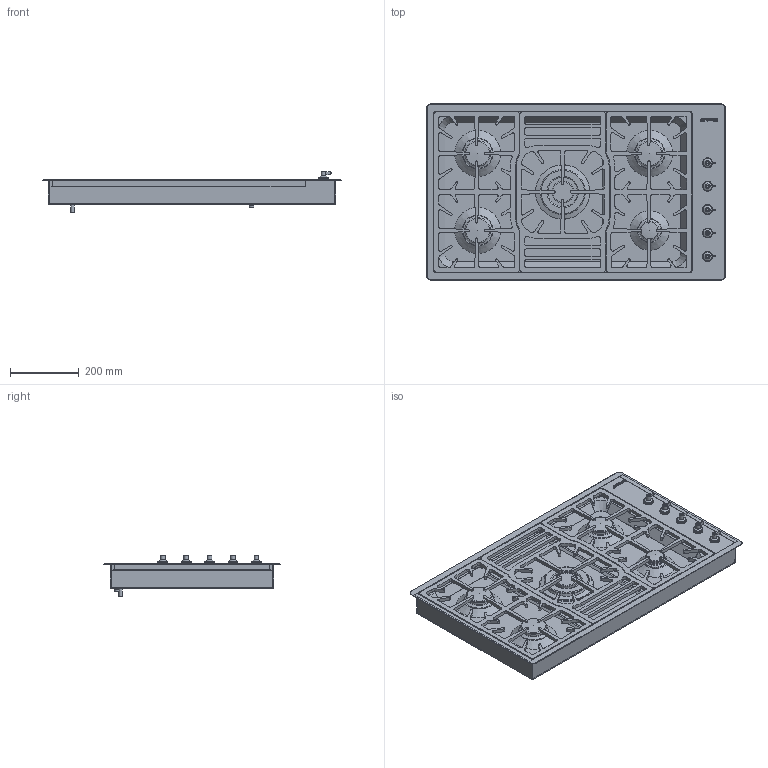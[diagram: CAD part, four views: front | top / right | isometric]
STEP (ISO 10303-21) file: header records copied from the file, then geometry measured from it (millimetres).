
FILE_DESCRIPTION(/* description */ (''),/* implementation_level */ '2;1');
FILE_NAME(/* name */ 'piano pgf95-4.stp',/* time_stamp */ '2018-08-08T17:10:33+02:00',/* author */ (''),/* organization */ (''),/* preprocessor_version */ 'ST-DEVELOPER v16',/* originating_system */ 'SIEMENS PLM Software NX 11.0',/* authorisation */ '');
FILE_SCHEMA (('AUTOMOTIVE_DESIGN { 1 0 10303 214 3 1 1 1 }'));
Length unit declared in the file: millimetre
Products named in the file (1): gobbAEC4546B4qmx
Bounding box: 868.2 x 513.05 x 118.9 mm (x, y, z)
Volume: 4076846.2 mm3; surface area: 2800636.1 mm2
Topology: 52 solids, 52 shells, 1032 faces, 2594 edges, 1711 vertices
Faces by surface type: plane 546, cylinder 389, cone 46, torus 36, extrusion 11, sphere 3, bspline 1
Full cylindrical faces by diameter (mm): 4.608 x6, 6 x5, 8 x5, 10 x13, 13.5 x5, 14 x2, 20 x5, 21.6 x1, 22 x1, 26 x1, 27 x5, 29 x5, 40.6 x3, 51 x1, 55 x1, 62 x1, 63.5 x1, 63.9 x1, 65.5 x1, 71 x3, 75 x3, 85.5 x3, 86.2 x1, 92 x1, 131 x1, 158 x1
Entity records: 30741 total; most frequent: CARTESIAN_POINT 5476, DIRECTION 5336, ORIENTED_EDGE 4844, EDGE_CURVE 2422, AXIS2_PLACEMENT_3D 1905, VERTEX_POINT 1691, VECTOR 1526, LINE 1515
